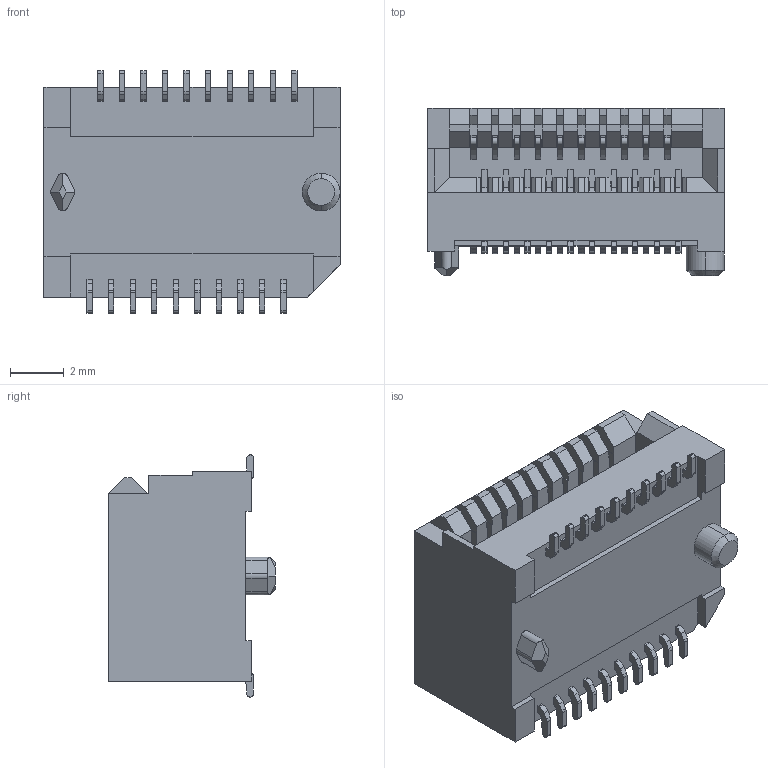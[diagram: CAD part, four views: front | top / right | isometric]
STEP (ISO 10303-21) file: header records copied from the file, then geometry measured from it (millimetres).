
FILE_DESCRIPTION((''),'2;1');
FILE_NAME('47030-00J191','2020-03-31T',('glg'),(''),'PRO/ENGINEER BY PARAMETRIC TECHNOLOGY CORPORATION, 2012130','PRO/ENGINEER BY PARAMETRIC TECHNOLOGY CORPORATION, 2012130','');
FILE_SCHEMA(('CONFIG_CONTROL_DESIGN'));
Length unit declared in the file: millimetre
Products named in the file (1): 47030-00J191
Bounding box: 11 x 6.2 x 9 mm (x, y, z)
Volume: 338.4 mm3; surface area: 762.8 mm2
Topology: 1 solids, 11 shells, 1021 faces, 2913 edges, 1944 vertices
Faces by surface type: plane 703, cylinder 316, cone 2
Entity records: 33270 total; most frequent: CARTESIAN_POINT 5931, ORIENTED_EDGE 5822, DIRECTION 5586, EDGE_CURVE 2911, VECTOR 2242, LINE 2242, VERTEX_POINT 1943, AXIS2_PLACEMENT_3D 1672
